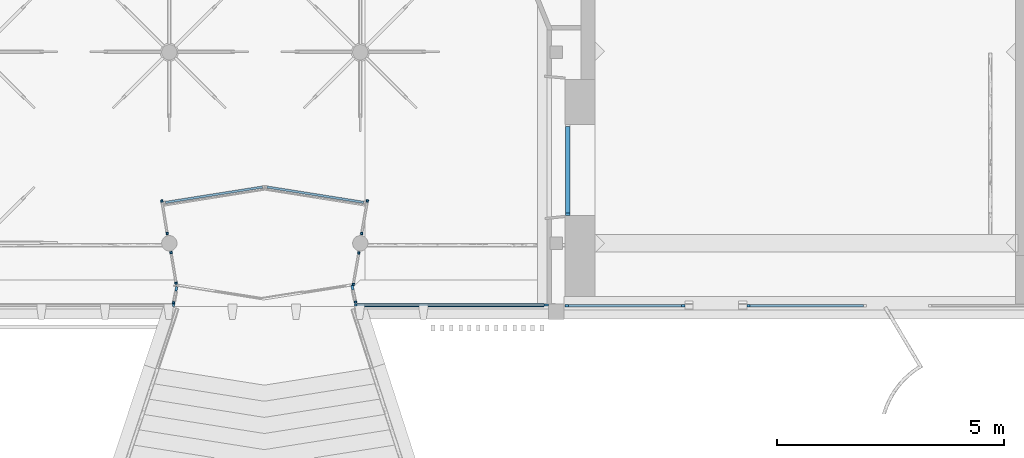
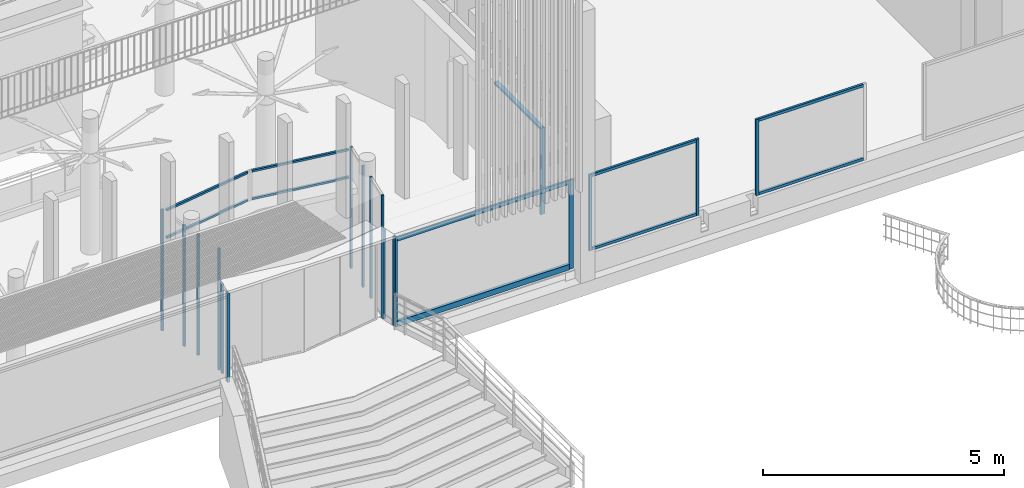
# One storey, part 6 of 65: 30 members, 13 elements without a shape of their own.
"""IFC4 building model written with IfcOpenShell, lengths in metres."""

import ifcopenshell
import ifcopenshell.guid

model = None  # the IFC model being written
_history = None  # IfcOwnerHistory: only IFC2X3 demands one
_inside = {}  # id of a spatial element -> (the spatial element, [elements in it])
_under = {}  # id of a project, library or spatial element -> (it, [spatial elements below it])
_declared = {}  # id of a project -> (the project, [libraries it declares])
_typed = {}  # id of a type object -> (the type object, [elements of that type])
_made_of = {}  # id of a material, layer set ... -> (it, [elements and type objects made of it])


def new_model(schema):
    """Start an empty IFC model of exactly this schema.

    Asked for "IFC4X3", IfcOpenShell would pick the latest addendum, in which some entities
    have other attributes; the version numbers below select the first issue.
    IFC2X3 requires an IfcOwnerHistory on every rooted entity: one is made here for all.
    """
    global model, _history
    if schema == "IFC4X3":
        model = ifcopenshell.file(schema_version=(4, 3, 0, 0))
    else:
        model = ifcopenshell.file(schema=schema)
    _inside.clear()
    _under.clear()
    _declared.clear()
    _typed.clear()
    _made_of.clear()
    _history = None
    if model.schema == "IFC2X3":
        org = make("IfcOrganization", Name="unknown")
        user = make(
            "IfcPersonAndOrganization",
            ThePerson=make("IfcPerson", FamilyName="unknown"),
            TheOrganization=org,
        )
        app = make(
            "IfcApplication",
            ApplicationDeveloper=org,
            Version="unknown",
            ApplicationFullName="unknown",
            ApplicationIdentifier="unknown",
        )
        _history = make(
            "IfcOwnerHistory",
            OwningUser=user,
            OwningApplication=app,
            ChangeAction="ADDED",
            CreationDate=0,
        )
    return model


def make(cls, **values):
    """One entity of the class cls with the attributes given. An attribute that is None is left unset."""
    return model.create_entity(
        cls, **{name: value for name, value in values.items() if value is not None}
    )


def entity(cls, *values):
    """Any entity or typed value of the class cls, its attributes in the order of the schema. None: left unset."""
    e = model.create_entity(cls)
    for i, value in enumerate(values):
        if value is not None:
            e[i] = value
    return e


def rooted(cls, **values):
    """An entity with a GlobalId (a new one), such as an element, a storey or a relation."""
    return make(cls, GlobalId=ifcopenshell.guid.new(), OwnerHistory=_history, **values)


def si_unit(unit_type, name, prefix=None):
    """IfcSIUnit, for example si_unit("LENGTHUNIT", "METRE", prefix="MILLI")."""
    return make("IfcSIUnit", UnitType=unit_type, Prefix=prefix, Name=name)


def converted_unit(unit_type, name, factor, base, dimensions=None, offset=None):
    """IfcConversionBasedUnit, such as the inch: factor (a typed value) times the base unit."""
    return make(
        "IfcConversionBasedUnit"
        if offset is None
        else "IfcConversionBasedUnitWithOffset",
        ConversionOffset=offset,
        Dimensions=None
        if dimensions is None
        else entity("IfcDimensionalExponents", *dimensions),
        UnitType=unit_type,
        Name=name,
        ConversionFactor=make(
            "IfcMeasureWithUnit", ValueComponent=factor, UnitComponent=base
        ),
    )


def derived_unit(unit_type, elements):
    """IfcDerivedUnit: a product of units, each with its exponent."""
    return make(
        "IfcDerivedUnit",
        Elements=[
            make("IfcDerivedUnitElement", Unit=unit, Exponent=power)
            for unit, power in elements
        ],
        UnitType=unit_type,
    )


def assignment(units):
    """IfcUnitAssignment: the units of a project."""
    return None if units is None else make("IfcUnitAssignment", Units=units)


def point(xyz):
    """IfcCartesianPoint."""
    return None if xyz is None else make("IfcCartesianPoint", Coordinates=xyz)


def direction(xyz):
    """IfcDirection."""
    return None if xyz is None else make("IfcDirection", DirectionRatios=xyz)


def frame(location, z_axis=None, x_axis=None):
    """IfcAxis2Placement3D, a coordinate frame: its origin and axes. An axis left out is left unset."""
    return make(
        "IfcAxis2Placement3D",
        Location=point(location),
        Axis=direction(z_axis),
        RefDirection=direction(x_axis),
    )


def origin():
    """The frame at (0, 0, 0) with its axes left unset."""
    return frame((0.0, 0.0, 0.0))


def place(relative_to, where):
    """IfcLocalPlacement: puts the frame where relative to a parent placement (None: the world)."""
    return make(
        "IfcLocalPlacement", PlacementRelTo=relative_to, RelativePlacement=where
    )


def context(
    kind, dimensions, precision=None, world=None, true_north=None, identifier=None
):
    """IfcGeometricRepresentationContext, for example the 3D "Model" context."""
    return make(
        "IfcGeometricRepresentationContext",
        ContextIdentifier=identifier,
        ContextType=kind,
        CoordinateSpaceDimension=dimensions,
        Precision=precision,
        WorldCoordinateSystem=world,
        TrueNorth=true_north,
    )


def subcontext(parent, identifier, kind, view, scale=None):
    """IfcGeometricRepresentationSubContext, for example "Body" below "Model"."""
    return make(
        "IfcGeometricRepresentationSubContext",
        ContextIdentifier=identifier,
        ContextType=kind,
        ParentContext=parent,
        TargetScale=scale,
        TargetView=view,
    )


def project(units=None, contexts=None):
    """IfcProject with its units and contexts."""
    return rooted(
        "IfcProject",
        Name="project",
        RepresentationContexts=contexts,
        UnitsInContext=assignment(units),
    )


def spatial(cls, under=None, at=None, **own):
    """A site, building, storey or space (cls), placed at a placement, below another one or the project."""
    s = rooted(cls, ObjectPlacement=at, **own)
    if under is not None:
        _under.setdefault(under.id(), (under, []))[1].append(s)
    return s


def point_list(points):
    """IfcCartesianPointList2D or 3D."""
    cls = (
        "IfcCartesianPointList2D" if len(points[0]) == 2 else "IfcCartesianPointList3D"
    )
    return make(cls, CoordList=points)


def indexed_curve(points, segments=None, self_intersect=None):
    """IfcIndexedPolyCurve: lines and arcs through numbered points (the first is 1)."""
    return make(
        "IfcIndexedPolyCurve",
        Points=point_list(points),
        Segments=segments,
        SelfIntersect=self_intersect,
    )


def outline(outer, holes=None, kind="AREA"):
    """IfcArbitraryClosedProfileDef: a profile drawn as a closed curve; with holes, ...WithVoids."""
    if holes is None:
        return make("IfcArbitraryClosedProfileDef", ProfileType=kind, OuterCurve=outer)
    return make(
        "IfcArbitraryProfileDefWithVoids",
        ProfileType=kind,
        OuterCurve=outer,
        InnerCurves=holes,
    )


def extrude(swept, where, along, depth):
    """IfcExtrudedAreaSolid: the profile swept, set in the frame where, extruded along a direction by depth."""
    return make(
        "IfcExtrudedAreaSolid",
        SweptArea=swept,
        Position=where,
        ExtrudedDirection=direction(along),
        Depth=depth,
    )


def shape(context_of_items, identifier, shape_type, items):
    """IfcShapeRepresentation: the items that make up one representation, for example the "Body"."""
    return make(
        "IfcShapeRepresentation",
        ContextOfItems=context_of_items,
        RepresentationIdentifier=identifier,
        RepresentationType=shape_type,
        Items=items,
    )


def source(mapping_origin, context_of_items, identifier, shape_type, items):
    """IfcRepresentationMap: a shape defined once, which mapped items show again and again."""
    return make(
        "IfcRepresentationMap",
        MappingOrigin=mapping_origin,
        MappedRepresentation=shape(context_of_items, identifier, shape_type, items),
    )


def transform(
    local_origin,
    x_axis=None,
    y_axis=None,
    z_axis=None,
    scale=None,
    scale2=None,
    scale3=None,
    uniform=True,
):
    """IfcCartesianTransformationOperator3D, or its non-uniform kind. x_axis, y_axis, z_axis: its Axis1, 2, 3."""
    if uniform:
        return make(
            "IfcCartesianTransformationOperator3D",
            Axis1=direction(x_axis),
            Axis2=direction(y_axis),
            LocalOrigin=point(local_origin),
            Scale=scale,
            Axis3=direction(z_axis),
        )
    return make(
        "IfcCartesianTransformationOperator3DnonUniform",
        Axis1=direction(x_axis),
        Axis2=direction(y_axis),
        LocalOrigin=point(local_origin),
        Scale=scale,
        Axis3=direction(z_axis),
        Scale2=scale2,
        Scale3=scale3,
    )


def mapped(mapping_source, mapping_target):
    """IfcMappedItem: shows the shape of a source again, moved by a transform."""
    return make(
        "IfcMappedItem", MappingSource=mapping_source, MappingTarget=mapping_target
    )


def material(Name=None, Category=None):
    """IfcMaterial."""
    return make("IfcMaterial", Name=Name, Category=Category)


def made_of(thing, what):
    """Note that an element or type object is made of a material, layer set ...; save() writes the relation."""
    if what is not None:
        _made_of.setdefault(what.id(), (what, []))[1].append(thing)
    return thing


def type_object(cls, material=None, **own):
    """A type object (cls), such as IfcWallType, which elements share."""
    return made_of(rooted(cls, **own), material)


def type_shapes(of_type, sources):
    """Give a type object the sources (RepresentationMaps) that its elements show as mapped items."""
    of_type.RepresentationMaps = sources


def element(
    cls,
    number,
    at=None,
    inside=None,
    cuts=None,
    type_object=None,
    material=None,
    context=None,
    identifier="Body",
    shape_type=None,
    held_by="IfcProductDefinitionShape",
    body=None,
    shapes=None,
    **own,
):
    """One element of the class cls, such as IfcWall. Its Tag is "e" and its number.

    at: its placement. inside: the storey or other place that contains it. cuts: it is an
    opening in that element (IfcRelVoidsElement). A single representation is given by context,
    identifier, shape_type and body (its items); several are given by shapes. held_by: the class
    of the entity that holds the representations. save() writes the other relations.
    """
    e = rooted(cls, Tag="e%d" % number, ObjectPlacement=at, **own)
    if body is not None:
        shapes = [shape(context, identifier, shape_type, body)]
    if shapes is not None:
        e.Representation = make(held_by, Representations=shapes)
    if inside is not None:
        _inside.setdefault(inside.id(), (inside, []))[1].append(e)
    if cuts is not None:
        rooted(
            "IfcRelVoidsElement", RelatingBuildingElement=cuts, RelatedOpeningElement=e
        )
    if type_object is not None:
        _typed.setdefault(type_object.id(), (type_object, []))[1].append(e)
    return made_of(e, material)


def aggregate(whole, parts):
    """IfcRelAggregates: a whole, such as a stair, and the parts it consists of."""
    return rooted("IfcRelAggregates", RelatingObject=whole, RelatedObjects=parts)


def save(model, path):
    """Write the relations noted so far, then the file.

    IfcRelAggregates (storeys below a building ...), IfcRelContainedInSpatialStructure (elements
    in a storey), IfcRelDefinesByType, IfcRelAssociatesMaterial and IfcRelDeclares: one each for
    every whole, place, type object, material and project.
    """
    for whole, parts in _under.values():
        aggregate(whole, parts)
    for where, things in _inside.values():
        rooted(
            "IfcRelContainedInSpatialStructure",
            RelatedElements=things,
            RelatingStructure=where,
        )
    for kind, things in _typed.values():
        rooted("IfcRelDefinesByType", RelatedObjects=things, RelatingType=kind)
    for what, things in _made_of.values():
        rooted("IfcRelAssociatesMaterial", RelatedObjects=things, RelatingMaterial=what)
    for by, libraries in _declared.values():
        rooted("IfcRelDeclares", RelatingContext=by, RelatedDefinitions=libraries)
    model.write(path)


model = new_model("IFC4")

# Units and contexts
model_context = context("Model", 3, precision=1e-05, world=origin(), true_north=direction((6.12303176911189e-17, 1.0)))
body_context = subcontext(model_context, "Body", "Model", "MODEL_VIEW")
ifc_project = project(units=[si_unit("LENGTHUNIT", "METRE"), si_unit("AREAUNIT", "SQUARE_METRE"), si_unit("VOLUMEUNIT", "CUBIC_METRE"), converted_unit("PLANEANGLEUNIT", "DEGREE", entity("IfcRatioMeasure", 0.0174532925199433), si_unit("PLANEANGLEUNIT", "RADIAN"), dimensions=[0, 0, 0, 0, 0, 0, 0]), si_unit("MASSUNIT", "GRAM", prefix="KILO"), derived_unit("MASSDENSITYUNIT", [(si_unit("MASSUNIT", "GRAM", prefix="KILO"), 1), (si_unit("LENGTHUNIT", "METRE"), -3)]), derived_unit("MOMENTOFINERTIAUNIT", [(si_unit("LENGTHUNIT", "METRE"), 4)]), si_unit("TIMEUNIT", "SECOND"), si_unit("FREQUENCYUNIT", "HERTZ"), si_unit("THERMODYNAMICTEMPERATUREUNIT", "DEGREE_CELSIUS"), derived_unit("THERMALTRANSMITTANCEUNIT", [(si_unit("MASSUNIT", "GRAM", prefix="KILO"), 1), (si_unit("THERMODYNAMICTEMPERATUREUNIT", "KELVIN"), -1), (si_unit("TIMEUNIT", "SECOND"), -3)]), derived_unit("VOLUMETRICFLOWRATEUNIT", [(si_unit("LENGTHUNIT", "METRE"), 3), (si_unit("TIMEUNIT", "SECOND"), -1)]), si_unit("ELECTRICCURRENTUNIT", "AMPERE"), si_unit("ELECTRICVOLTAGEUNIT", "VOLT"), si_unit("POWERUNIT", "WATT"), si_unit("FORCEUNIT", "NEWTON", prefix="KILO"), si_unit("ILLUMINANCEUNIT", "LUX"), si_unit("LUMINOUSFLUXUNIT", "LUMEN"), si_unit("LUMINOUSINTENSITYUNIT", "CANDELA"), derived_unit("USERDEFINED", [(si_unit("MASSUNIT", "GRAM", prefix="KILO"), -1), (si_unit("LENGTHUNIT", "METRE"), -2), (si_unit("TIMEUNIT", "SECOND"), 3), (si_unit("LUMINOUSFLUXUNIT", "LUMEN"), 1)]), derived_unit("LINEARVELOCITYUNIT", [(si_unit("LENGTHUNIT", "METRE"), 1), (si_unit("TIMEUNIT", "SECOND"), -1)]), si_unit("PRESSUREUNIT", "PASCAL"), derived_unit("USERDEFINED", [(si_unit("LENGTHUNIT", "METRE"), -2), (si_unit("MASSUNIT", "GRAM", prefix="KILO"), 1), (si_unit("TIMEUNIT", "SECOND"), -2)]), derived_unit("LINEARFORCEUNIT", [(si_unit("MASSUNIT", "GRAM", prefix="KILO"), 1), (si_unit("LENGTHUNIT", "METRE"), 1), (si_unit("TIMEUNIT", "SECOND"), -2), (si_unit("LENGTHUNIT", "METRE"), -1)]), derived_unit("PLANARFORCEUNIT", [(si_unit("MASSUNIT", "GRAM", prefix="KILO"), 1), (si_unit("LENGTHUNIT", "METRE"), 1), (si_unit("TIMEUNIT", "SECOND"), -2), (si_unit("LENGTHUNIT", "METRE"), -2)])], contexts=[model_context])

# Site, building, storey
site_placement = place(None, origin())
site = spatial("IfcSite", under=ifc_project, at=site_placement, Name="Default", CompositionType="ELEMENT")
building_placement = place(site_placement, origin())
building = spatial("IfcBuilding", under=site, at=building_placement, Name="HOTEL CONSULAIRE BOULOGNE SUR MER", CompositionType="ELEMENT")
storey_placement = place(building_placement, origin())
storey = spatial("IfcBuildingStorey", under=building, at=storey_placement, Name="Niveau 0", CompositionType="ELEMENT", Elevation=1.31981936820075e-13)

# Curtain wall, members
curtain_wall_type = type_object("IfcCurtainWallType", Name="Mur-rideau:Simple panneau", PredefinedType="NOTDEFINED")
curtain_wall_1_placement = place(storey_placement, origin())
curtain_wall_1 = element("IfcCurtainWall", 1, at=curtain_wall_1_placement, inside=storey, type_object=curtain_wall_type, Name="Mur-rideau:Simple panneau", ObjectType="Mur-rideau:Simple panneau", PredefinedType="NOTDEFINED")
ifc_material_1 = material(Name="PVC, souple", Category="Plastique")
member_type_1 = type_object("IfcMemberType", Name="Meneau rectangulaire:100 x 25mm", PredefinedType="MULLION", material=ifc_material_1)
shared_shape_1 = source(origin(), body_context, "Body", "SweptSolid", [
    extrude(outline(indexed_curve([(-0.05, -0.025), (0.05, -0.025), (0.05, 0.025), (-0.05, 0.025), (-0.05, -0.025)], self_intersect=False)), frame((-0.025, 0.0, -2.18791504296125), z_axis=(0.0, 0.0, 1.0), x_axis=(0.0, -1.0, 0.0)), (0.0, 0.0, 1.0), 2.18791504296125),
])
type_shapes(member_type_1, [shared_shape_1])
member_1_placement = place(storey_placement, frame((11.7294778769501, -27.6000563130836, 2.1879150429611), z_axis=(0.0, 0.0, 1.0), x_axis=(0.0, -1.0, 0.0)))
member_1 = element("IfcMember", 2, at=member_1_placement, type_object=member_type_1, material=ifc_material_1, Name="Meneau rectangulaire:100 x 25mm", ObjectType="Meneau rectangulaire:100 x 25mm", PredefinedType="MULLION", context=body_context, shape_type="MappedRepresentation", body=[
    mapped(shared_shape_1, transform((0.0, 0.0, 0.0), scale=1.0)),
])
member_type_2 = type_object("IfcMemberType", Name="Meneau rectangulaire:100 x 25mm", PredefinedType="MULLION", material=ifc_material_1)
shared_shape_2 = source(origin(), body_context, "Body", "SweptSolid", [
    extrude(outline(indexed_curve([(-0.05, -0.025), (0.05, -0.025), (0.05, 0.025), (-0.05, 0.025), (-0.05, -0.025)], self_intersect=False)), frame((-0.025, 0.0, -1.89707398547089), z_axis=(0.0, 0.0, 1.0), x_axis=(0.0, -1.0, 0.0)), (0.0, 0.0, 1.0), 1.89707398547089),
])
type_shapes(member_type_2, [shared_shape_2])
member_2_placement = place(storey_placement, frame((11.7294778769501, -25.6529823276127, 2.1879150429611), z_axis=(0.0, 1.0, 0.0), x_axis=(0.0, 0.0, 1.0)))
member_2 = element("IfcMember", 3, at=member_2_placement, type_object=member_type_2, material=ifc_material_1, Name="Meneau rectangulaire:100 x 25mm", ObjectType="Meneau rectangulaire:100 x 25mm", PredefinedType="MULLION", context=body_context, shape_type="MappedRepresentation", body=[
    mapped(shared_shape_2, transform((0.0, 0.0, 0.0), scale=1.0)),
])
aggregate(curtain_wall_1, [member_1, member_2])

# Curtain wall, member
curtain_wall_2_placement = place(storey_placement, origin())
curtain_wall_2 = element("IfcCurtainWall", 4, at=curtain_wall_2_placement, inside=storey, type_object=curtain_wall_type, Name="Mur-rideau:Simple panneau", ObjectType="Mur-rideau:Simple panneau", PredefinedType="NOTDEFINED")
ifc_material_2 = material(Name="PVC - Blanc", Category="Plastique")
member_type_3 = type_object("IfcMemberType", Name="Meneau rectangulaire:50 x 25mm", PredefinedType="MULLION", material=ifc_material_2)
shared_shape_3 = source(origin(), body_context, "Body", "SweptSolid", [
    extrude(outline(indexed_curve([(-0.025, -0.025), (0.025, -0.025), (0.025, 0.025), (-0.025, 0.025), (-0.025, -0.025)], self_intersect=False)), frame((-0.025, -0.025, -2.25), z_axis=(0.0, 0.0, 1.0), x_axis=(0.0, -1.0, 0.0)), (0.0, 0.0, 1.0), 2.25),
])
type_shapes(member_type_3, [shared_shape_3])
member_3_placement = place(storey_placement, frame((3.08622682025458, -29.5510671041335, 2.2499999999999)))
member_3 = element("IfcMember", 5, at=member_3_placement, type_object=member_type_3, material=ifc_material_2, Name="Meneau rectangulaire:50 x 25mm", ObjectType="Meneau rectangulaire:50 x 25mm", PredefinedType="MULLION", context=body_context, shape_type="MappedRepresentation", body=[
    mapped(shared_shape_3, transform((0.0, 0.0, 0.0), scale=1.0)),
])
aggregate(curtain_wall_2, [member_3])

curtain_wall_3_placement = place(storey_placement, origin())
curtain_wall_3 = element("IfcCurtainWall", 6, at=curtain_wall_3_placement, inside=storey, type_object=curtain_wall_type, Name="Mur-rideau:Simple panneau", ObjectType="Mur-rideau:Simple panneau", PredefinedType="NOTDEFINED")
member_4_placement = place(storey_placement, frame((3.08622682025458, -29.5510671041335, 2.2499999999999), z_axis=(0.0, 0.0, 1.0), x_axis=(-0.190808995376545, -0.981627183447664, 0.0)))
member_4 = element("IfcMember", 7, at=member_4_placement, type_object=member_type_3, material=ifc_material_2, Name="Meneau rectangulaire:50 x 25mm", ObjectType="Meneau rectangulaire:50 x 25mm", PredefinedType="MULLION", context=body_context, shape_type="MappedRepresentation", body=[
    mapped(shared_shape_3, transform((0.0, 0.0, 0.0), scale=1.0)),
])

curtain_wall_4_placement = place(storey_placement, origin())
curtain_wall_4 = element("IfcCurtainWall", 8, at=curtain_wall_4_placement, inside=storey, type_object=curtain_wall_type, Name="Mur-rideau:Simple panneau", ObjectType="Mur-rideau:Simple panneau", PredefinedType="NOTDEFINED")
member_5_placement = place(storey_placement, frame((7.04517677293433, -29.5980671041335, 2.2499999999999), z_axis=(0.0, 0.0, 1.0), x_axis=(-1.0, 0.0, 0.0)))
member_5 = element("IfcMember", 9, at=member_5_placement, type_object=member_type_3, material=ifc_material_2, Name="Meneau rectangulaire:50 x 25mm", ObjectType="Meneau rectangulaire:50 x 25mm", PredefinedType="MULLION", context=body_context, shape_type="MappedRepresentation", body=[
    mapped(shared_shape_3, transform((0.0, 0.0, 0.0), scale=1.0)),
])

# Member
member_type_4 = type_object("IfcMemberType", Name="Meneau rectangulaire:50 x 50 mm", PredefinedType="MULLION", material=ifc_material_2)
shared_shape_4 = source(origin(), body_context, "Body", "SweptSolid", [
    extrude(outline(indexed_curve([(-0.025, -0.05), (0.025, -0.05), (0.025, 0.05), (-0.025, 0.05), (-0.025, -0.05)], self_intersect=False)), frame((-0.05, -0.025, -2.25), z_axis=(0.0, 0.0, 1.0), x_axis=(0.0, -1.0, 0.0)), (0.0, 0.0, 1.0), 2.25),
])
type_shapes(member_type_4, [shared_shape_4])
member_6_placement = place(storey_placement, frame((3.1593066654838, -29.175103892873, 0.0), z_axis=(0.0, 0.0, -1.0), x_axis=(0.190808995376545, 0.981627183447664, 0.0)))
member_6 = element("IfcMember", 10, at=member_6_placement, type_object=member_type_4, material=ifc_material_2, Name="Meneau rectangulaire:50 x 50 mm", ObjectType="Meneau rectangulaire:50 x 50 mm", PredefinedType="MULLION", context=body_context, shape_type="MappedRepresentation", body=[
    mapped(shared_shape_4, transform((0.0, 0.0, 0.0), scale=1.0)),
])

aggregate(curtain_wall_3, [member_4, member_6])

member_7_placement = place(storey_placement, frame((11.3066382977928, -29.5980671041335, 0.0), z_axis=(0.0, 0.0, -1.0), x_axis=(1.0, 0.0, 0.0)))
member_7 = element("IfcMember", 11, at=member_7_placement, type_object=member_type_4, material=ifc_material_2, Name="Meneau rectangulaire:50 x 50 mm", ObjectType="Meneau rectangulaire:50 x 50 mm", PredefinedType="MULLION", context=body_context, shape_type="MappedRepresentation", body=[
    mapped(shared_shape_4, transform((0.0, 0.0, 0.0), scale=1.0)),
])

# Curtain wall, member
curtain_wall_5_placement = place(storey_placement, origin())
curtain_wall_5 = element("IfcCurtainWall", 12, at=curtain_wall_5_placement, inside=storey, type_object=curtain_wall_type, Name="Mur-rideau:Simple panneau", ObjectType="Mur-rideau:Simple panneau", PredefinedType="NOTDEFINED")
member_type_5 = type_object("IfcMemberType", Name="Meneau rectangulaire:50 x 25mm", PredefinedType="MULLION", material=ifc_material_2)
shared_shape_5 = source(origin(), body_context, "Body", "SweptSolid", [
    extrude(outline(indexed_curve([(-0.025, -0.025), (0.025, -0.025), (0.025, 0.025), (-0.025, 0.025), (-0.025, -0.025)], self_intersect=False)), frame((-0.025, -0.025, -3.06461878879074), z_axis=(0.0, 0.0, 1.0), x_axis=(0.0, -1.0, 0.0)), (0.0, 0.0, 1.0), 3.06461878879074),
])
type_shapes(member_type_5, [shared_shape_5])
member_8_placement = place(storey_placement, frame((3.14901023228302, -29.1132098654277, 3.06461878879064), z_axis=(0.0, 0.0, 1.0), x_axis=(0.164100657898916, -0.98644359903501, 0.0)))
member_8 = element("IfcMember", 13, at=member_8_placement, type_object=member_type_5, material=ifc_material_2, Name="Meneau rectangulaire:50 x 25mm", ObjectType="Meneau rectangulaire:50 x 25mm", PredefinedType="MULLION", context=body_context, shape_type="MappedRepresentation", body=[
    mapped(shared_shape_5, transform((0.0, 0.0, 0.0), scale=1.0)),
])

curtain_wall_6_placement = place(storey_placement, origin())
curtain_wall_6 = element("IfcCurtainWall", 14, at=curtain_wall_6_placement, inside=storey, type_object=curtain_wall_type, Name="Mur-rideau:Simple panneau", ObjectType="Mur-rideau:Simple panneau", PredefinedType="NOTDEFINED")
member_9_placement = place(storey_placement, frame((2.9533054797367, -28.0203385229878, 3.06461878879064), z_axis=(0.0, 0.0, 1.0), x_axis=(0.161062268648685, -0.986944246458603, 0.0)))
member_9 = element("IfcMember", 15, at=member_9_placement, type_object=member_type_5, material=ifc_material_2, Name="Meneau rectangulaire:50 x 25mm", ObjectType="Meneau rectangulaire:50 x 25mm", PredefinedType="MULLION", context=body_context, shape_type="MappedRepresentation", body=[
    mapped(shared_shape_5, transform((0.0, 0.0, 0.0), scale=1.0)),
])

# Member
member_type_6 = type_object("IfcMemberType", Name="Meneau rectangulaire:50 x 25mm", PredefinedType="MULLION", material=ifc_material_2)
shared_shape_6 = source(origin(), body_context, "Body", "SweptSolid", [
    extrude(outline(indexed_curve([(-0.025, -0.025), (0.025, -0.025), (0.025, 0.025), (-0.025, 0.025), (-0.025, -0.025)], self_intersect=False)), frame((-0.025, -0.025, -3.06461878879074), z_axis=(0.0, 0.0, 1.0), x_axis=(0.0, -1.0, 0.0)), (0.0, 0.0, 1.0), 3.06461878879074),
])
type_shapes(member_type_6, [shared_shape_6])
member_10_placement = place(storey_placement, frame((3.02901074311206, -28.3918676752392, 0.0), z_axis=(0.0, 0.0, -1.0), x_axis=(-0.164100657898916, 0.98644359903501, 0.0)))
member_10 = element("IfcMember", 16, at=member_10_placement, type_object=member_type_6, material=ifc_material_2, Name="Meneau rectangulaire:50 x 25mm", ObjectType="Meneau rectangulaire:50 x 25mm", PredefinedType="MULLION", context=body_context, shape_type="MappedRepresentation", body=[
    mapped(shared_shape_6, transform((0.0, 0.0, 0.0), scale=1.0)),
])

aggregate(curtain_wall_5, [member_8, member_10])

member_11_placement = place(storey_placement, frame((2.82866334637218, -27.2565666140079, 0.0), z_axis=(0.0, 0.0, -1.0), x_axis=(-0.161062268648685, 0.986944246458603, 0.0)))
member_11 = element("IfcMember", 17, at=member_11_placement, type_object=member_type_6, material=ifc_material_2, Name="Meneau rectangulaire:50 x 25mm", ObjectType="Meneau rectangulaire:50 x 25mm", PredefinedType="MULLION", context=body_context, shape_type="MappedRepresentation", body=[
    mapped(shared_shape_6, transform((0.0, 0.0, 0.0), scale=1.0)),
])

aggregate(curtain_wall_6, [member_9, member_11])

member_type_7 = type_object("IfcMemberType", Name="Meneau rectangulaire:70x70", PredefinedType="MULLION", material=ifc_material_2)
shared_shape_7 = source(origin(), body_context, "Body", "SweptSolid", [
    extrude(outline(indexed_curve([(-0.035, -0.07), (0.035, -0.07), (0.035, 0.07), (-0.035, 0.07), (-0.035, -0.07)], self_intersect=False)), frame((-0.07, -0.02, -4.11146152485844), z_axis=(0.0, 0.0, 1.0), x_axis=(0.0, -1.0, 0.0)), (0.0, 0.0, 1.0), 4.11146152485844),
])
type_shapes(member_type_7, [shared_shape_7])
member_12_placement = place(storey_placement, frame((7.09517677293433, -29.5980671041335, 0.0), z_axis=(-1.0, 0.0, 0.0), x_axis=(0.0, 0.0, -1.0)))
member_12 = element("IfcMember", 18, at=member_12_placement, type_object=member_type_7, material=ifc_material_2, Name="Meneau rectangulaire:70x70", ObjectType="Meneau rectangulaire:70x70", PredefinedType="MULLION", context=body_context, shape_type="MappedRepresentation", body=[
    mapped(shared_shape_7, transform((0.0, 0.0, 0.0), scale=1.0)),
])

member_type_8 = type_object("IfcMemberType", Name="Meneau rectangulaire:50 x 50 mm", PredefinedType="MULLION", material=ifc_material_2)
shared_shape_8 = source(origin(), body_context, "Body", "SweptSolid", [
    extrude(outline(indexed_curve([(-0.025, -0.05), (0.025, -0.05), (0.025, 0.05), (-0.025, 0.05), (-0.025, -0.05)], self_intersect=False)), frame((-0.05, -0.025, -4.11146152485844), z_axis=(0.0, 0.0, 1.0), x_axis=(0.0, -1.0, 0.0)), (0.0, 0.0, 1.0), 4.11146152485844),
])
type_shapes(member_type_8, [shared_shape_8])
member_13_placement = place(storey_placement, frame((11.2066382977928, -29.5980671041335, 2.2499999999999), z_axis=(1.0, 0.0, 0.0), x_axis=(0.0, 0.0, 1.0)))
member_13 = element("IfcMember", 19, at=member_13_placement, type_object=member_type_8, material=ifc_material_2, Name="Meneau rectangulaire:50 x 50 mm", ObjectType="Meneau rectangulaire:50 x 50 mm", PredefinedType="MULLION", context=body_context, shape_type="MappedRepresentation", body=[
    mapped(shared_shape_8, transform((0.0, 0.0, 0.0), scale=1.0)),
])

aggregate(curtain_wall_4, [member_12, member_5, member_13, member_7])

# Curtain wall, members
curtain_wall_7_placement = place(storey_placement, origin())
curtain_wall_7 = element("IfcCurtainWall", 20, at=curtain_wall_7_placement, inside=storey, type_object=curtain_wall_type, Name="Mur-rideau:Simple panneau", ObjectType="Mur-rideau:Simple panneau", PredefinedType="NOTDEFINED")
member_type_9 = type_object("IfcMemberType", Name="Meneau rectangulaire:50 x 25mm", PredefinedType="MULLION", material=ifc_material_2)
shared_shape_9 = source(origin(), body_context, "Body", "SweptSolid", [
    extrude(outline(indexed_curve([(-0.025, -0.025), (0.025, -0.025), (0.025, 0.025), (-0.025, 0.025), (-0.025, -0.025)], self_intersect=False)), frame((-0.025, 0.025, -2.25), z_axis=(0.0, 0.0, 1.0), x_axis=(0.0, -1.0, 0.0)), (0.0, 0.0, 1.0), 2.25),
])
type_shapes(member_type_9, [shared_shape_9])
member_14_placement = place(storey_placement, frame((7.04694705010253, -29.5380671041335, 2.2499999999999), z_axis=(0.0, 0.0, 1.0), x_axis=(0.207911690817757, -0.978147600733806, 0.0)))
member_14 = element("IfcMember", 21, at=member_14_placement, type_object=member_type_9, material=ifc_material_2, Name="Meneau rectangulaire:50 x 25mm", ObjectType="Meneau rectangulaire:50 x 25mm", PredefinedType="MULLION", context=body_context, shape_type="MappedRepresentation", body=[
    mapped(shared_shape_9, transform((0.0, 0.0, 0.0), scale=1.0)),
])
member_type_10 = type_object("IfcMemberType", Name="Meneau rectangulaire:50 x 50 mm", PredefinedType="MULLION", material=ifc_material_2)
shared_shape_10 = source(origin(), body_context, "Body", "SweptSolid", [
    extrude(outline(indexed_curve([(-0.025, -0.05), (0.025, -0.05), (0.025, 0.05), (-0.025, 0.05), (-0.025, -0.05)], self_intersect=False)), frame((-0.05, 0.025, -2.25), z_axis=(0.0, 0.0, 1.0), x_axis=(0.0, -1.0, 0.0)), (0.0, 0.0, 1.0), 2.25),
])
type_shapes(member_type_10, [shared_shape_10])
member_15_placement = place(storey_placement, frame((6.96341299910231, -29.1450702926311, 0.0), z_axis=(0.0, 0.0, -1.0), x_axis=(-0.207911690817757, 0.978147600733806, 0.0)))
member_15 = element("IfcMember", 22, at=member_15_placement, type_object=member_type_10, material=ifc_material_2, Name="Meneau rectangulaire:50 x 50 mm", ObjectType="Meneau rectangulaire:50 x 50 mm", PredefinedType="MULLION", context=body_context, shape_type="MappedRepresentation", body=[
    mapped(shared_shape_10, transform((0.0, 0.0, 0.0), scale=1.0)),
])
aggregate(curtain_wall_7, [member_14, member_15])

# Curtain wall, member
curtain_wall_8_placement = place(storey_placement, origin())
curtain_wall_8 = element("IfcCurtainWall", 23, at=curtain_wall_8_placement, inside=storey, type_object=curtain_wall_type, Name="Mur-rideau:Simple panneau", ObjectType="Mur-rideau:Simple panneau", PredefinedType="NOTDEFINED")
member_type_11 = type_object("IfcMemberType", Name="Meneau rectangulaire:50 x 25mm", PredefinedType="MULLION", material=ifc_material_2)
shared_shape_11 = source(origin(), body_context, "Body", "SweptSolid", [
    extrude(outline(indexed_curve([(-0.025, -0.025), (0.025, -0.025), (0.025, 0.025), (-0.025, 0.025), (-0.025, -0.025)], self_intersect=False)), frame((-0.025, 0.025, -3.06461878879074), z_axis=(0.0, 0.0, 1.0), x_axis=(0.0, -1.0, 0.0)), (0.0, 0.0, 1.0), 3.06461878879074),
])
type_shapes(member_type_11, [shared_shape_11])
member_16_placement = place(storey_placement, frame((6.98748512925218, -29.139879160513, 3.06461878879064), z_axis=(0.0, 0.0, 1.0), x_axis=(-0.173648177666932, -0.984807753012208, 0.0)))
member_16 = element("IfcMember", 24, at=member_16_placement, type_object=member_type_11, material=ifc_material_2, Name="Meneau rectangulaire:50 x 25mm", ObjectType="Meneau rectangulaire:50 x 25mm", PredefinedType="MULLION", context=body_context, shape_type="MappedRepresentation", body=[
    mapped(shared_shape_11, transform((0.0, 0.0, 0.0), scale=1.0)),
])

curtain_wall_9_placement = place(storey_placement, origin())
curtain_wall_9 = element("IfcCurtainWall", 25, at=curtain_wall_9_placement, inside=storey, type_object=curtain_wall_type, Name="Mur-rideau:Simple panneau", ObjectType="Mur-rideau:Simple panneau", PredefinedType="NOTDEFINED")
member_17_placement = place(storey_placement, frame((7.17117677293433, -28.020909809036, 3.06461878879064), z_axis=(0.0, 0.0, 1.0), x_axis=(-0.173648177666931, -0.984807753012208, 0.0)))
member_17 = element("IfcMember", 26, at=member_17_placement, type_object=member_type_11, material=ifc_material_2, Name="Meneau rectangulaire:50 x 25mm", ObjectType="Meneau rectangulaire:50 x 25mm", PredefinedType="MULLION", context=body_context, shape_type="MappedRepresentation", body=[
    mapped(shared_shape_11, transform((0.0, 0.0, 0.0), scale=1.0)),
])

# Member
member_type_12 = type_object("IfcMemberType", Name="Meneau rectangulaire:50 x 25mm", PredefinedType="MULLION", material=ifc_material_2)
shared_shape_12 = source(origin(), body_context, "Body", "SweptSolid", [
    extrude(outline(indexed_curve([(-0.025, -0.025), (0.025, -0.025), (0.025, 0.025), (-0.025, 0.025), (-0.025, -0.025)], self_intersect=False)), frame((-0.025, 0.025, -3.06461878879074), z_axis=(0.0, 0.0, 1.0), x_axis=(0.0, -1.0, 0.0)), (0.0, 0.0, 1.0), 3.06461878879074),
])
type_shapes(member_type_12, [shared_shape_12])
member_18_placement = place(storey_placement, frame((7.11806855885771, -28.3993037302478, 0.0), z_axis=(0.0, 0.0, -1.0), x_axis=(0.173648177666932, 0.984807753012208, 0.0)))
member_18 = element("IfcMember", 27, at=member_18_placement, type_object=member_type_12, material=ifc_material_2, Name="Meneau rectangulaire:50 x 25mm", ObjectType="Meneau rectangulaire:50 x 25mm", PredefinedType="MULLION", context=body_context, shape_type="MappedRepresentation", body=[
    mapped(shared_shape_12, transform((0.0, 0.0, 0.0), scale=1.0)),
])

aggregate(curtain_wall_8, [member_16, member_18])

member_19_placement = place(storey_placement, frame((7.30595110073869, -27.2565666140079, 0.0), z_axis=(0.0, 0.0, -1.0), x_axis=(0.173648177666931, 0.984807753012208, 0.0)))
member_19 = element("IfcMember", 28, at=member_19_placement, type_object=member_type_12, material=ifc_material_2, Name="Meneau rectangulaire:50 x 25mm", ObjectType="Meneau rectangulaire:50 x 25mm", PredefinedType="MULLION", context=body_context, shape_type="MappedRepresentation", body=[
    mapped(shared_shape_12, transform((0.0, 0.0, 0.0), scale=1.0)),
])

aggregate(curtain_wall_9, [member_17, member_19])

# Curtain wall, members
curtain_wall_10_placement = place(storey_placement, origin())
curtain_wall_10 = element("IfcCurtainWall", 29, at=curtain_wall_10_placement, inside=storey, type_object=curtain_wall_type, Name="Mur-rideau:Simple panneau", ObjectType="Mur-rideau:Simple panneau", PredefinedType="NOTDEFINED")
member_type_13 = type_object("IfcMemberType", Name="Meneau rectangulaire:50 x 25mm", PredefinedType="MULLION", material=ifc_material_2)
shared_shape_13 = source(origin(), body_context, "Body", "SweptSolid", [
    extrude(outline(indexed_curve([(-0.025, -0.025), (0.0250000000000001, -0.025), (0.0250000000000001, 0.025), (-0.0249999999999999, 0.025), (-0.025, -0.025)], self_intersect=False)), frame((-0.025, -0.025, -2.15674557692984), z_axis=(0.0, 0.0, 1.0), x_axis=(0.0, -1.0, 0.0)), (0.0, 0.0, 1.0), 2.15674557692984),
])
type_shapes(member_type_13, [shared_shape_13])
member_20_placement = place(storey_placement, frame((5.02087097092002, -27.0049427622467, 3.06461878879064), z_axis=(0.987688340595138, 0.156434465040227, 0.0), x_axis=(0.0, 0.0, 1.0)))
member_20 = element("IfcMember", 30, at=member_20_placement, type_object=member_type_13, material=ifc_material_2, Name="Meneau rectangulaire:50 x 25mm", ObjectType="Meneau rectangulaire:50 x 25mm", PredefinedType="MULLION", context=body_context, shape_type="MappedRepresentation", body=[
    mapped(shared_shape_13, transform((0.0, 0.0, 0.0), scale=1.0)),
])
member_type_14 = type_object("IfcMemberType", Name="Meneau rectangulaire:50 x 25mm", PredefinedType="MULLION", material=ifc_material_2)
shared_shape_14 = source(origin(), body_context, "Body", "SweptSolid", [
    extrude(outline(indexed_curve([(-0.025, -0.025), (0.0249999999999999, -0.025), (0.0249999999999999, 0.025), (-0.0250000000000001, 0.025), (-0.025, -0.025)], self_intersect=False)), frame((-0.025, -0.025, -2.15674557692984), z_axis=(0.0, 0.0, 1.0), x_axis=(0.0, -1.0, 0.0)), (0.0, 0.0, 1.0), 2.15674557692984),
])
type_shapes(member_type_14, [shared_shape_14])
member_21_placement = place(storey_placement, frame((2.89067851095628, -27.3423321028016, 2.3159999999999), z_axis=(-0.987688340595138, -0.156434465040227, 0.0), x_axis=(0.0, 0.0, -1.0)))
member_21 = element("IfcMember", 31, at=member_21_placement, type_object=member_type_14, material=ifc_material_2, Name="Meneau rectangulaire:50 x 25mm", ObjectType="Meneau rectangulaire:50 x 25mm", PredefinedType="MULLION", context=body_context, shape_type="MappedRepresentation", body=[
    mapped(shared_shape_14, transform((0.0, 0.0, 0.0), scale=1.0)),
])
aggregate(curtain_wall_10, [member_20, member_21])

curtain_wall_11_placement = place(storey_placement, origin())
curtain_wall_11 = element("IfcCurtainWall", 32, at=curtain_wall_11_placement, inside=storey, type_object=curtain_wall_type, Name="Mur-rideau:Simple panneau", ObjectType="Mur-rideau:Simple panneau", PredefinedType="NOTDEFINED")
member_type_15 = type_object("IfcMemberType", Name="Meneau rectangulaire:50 x 25mm", PredefinedType="MULLION", material=ifc_material_2)
shared_shape_15 = source(origin(), body_context, "Body", "SweptSolid", [
    extrude(outline(indexed_curve([(-0.025, -0.025), (0.025, -0.025), (0.025, 0.025), (-0.025, 0.025), (-0.025, -0.025)], self_intersect=False)), frame((-0.025, 0.025, -2.14712497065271), z_axis=(0.0, 0.0, 1.0), x_axis=(0.0, -1.0, 0.0)), (0.0, 0.0, 1.0), 2.14712497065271),
])
type_shapes(member_type_15, [shared_shape_15])
member_22_placement = place(storey_placement, frame((5.11963980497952, -27.0049427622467, 3.06461878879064), z_axis=(-0.987688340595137, 0.156434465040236, 0.0), x_axis=(0.0, 0.0, 1.0)))
member_22 = element("IfcMember", 33, at=member_22_placement, type_object=member_type_15, material=ifc_material_2, Name="Meneau rectangulaire:50 x 25mm", ObjectType="Meneau rectangulaire:50 x 25mm", PredefinedType="MULLION", context=body_context, shape_type="MappedRepresentation", body=[
    mapped(shared_shape_15, transform((0.0, 0.0, 0.0), scale=1.0)),
])
member_type_16 = type_object("IfcMemberType", Name="Meneau rectangulaire:50 x 25mm", PredefinedType="MULLION", material=ifc_material_2)
shared_shape_16 = source(origin(), body_context, "Body", "SweptSolid", [
    extrude(outline(indexed_curve([(-0.025, -0.025), (0.025, -0.025), (0.025, 0.025), (-0.025, 0.025), (-0.025, -0.025)], self_intersect=False)), frame((-0.025, 0.025, -2.14712497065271), z_axis=(0.0, 0.0, 1.0), x_axis=(0.0, -1.0, 0.0)), (0.0, 0.0, 1.0), 2.14712497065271),
])
type_shapes(member_type_16, [shared_shape_16])
member_23_placement = place(storey_placement, frame((7.24033010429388, -27.3408271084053, 2.3159999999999), z_axis=(0.987688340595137, -0.156434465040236, 0.0), x_axis=(0.0, 0.0, -1.0)))
member_23 = element("IfcMember", 34, at=member_23_placement, type_object=member_type_16, material=ifc_material_2, Name="Meneau rectangulaire:50 x 25mm", ObjectType="Meneau rectangulaire:50 x 25mm", PredefinedType="MULLION", context=body_context, shape_type="MappedRepresentation", body=[
    mapped(shared_shape_16, transform((0.0, 0.0, 0.0), scale=1.0)),
])
aggregate(curtain_wall_11, [member_22, member_23])

# Curtain wall, member
curtain_wall_12_placement = place(storey_placement, origin())
curtain_wall_12 = element("IfcCurtainWall", 35, at=curtain_wall_12_placement, inside=storey, type_object=curtain_wall_type, Name="Mur-rideau:Simple panneau", ObjectType="Mur-rideau:Simple panneau", PredefinedType="NOTDEFINED")
ifc_material_3 = material(Name="alu finifion bleu")
member_type_17 = type_object("IfcMemberType", Name="Meneau rectangulaire:50 x 35 Alu bleu", PredefinedType="MULLION", material=ifc_material_3)
shared_shape_17 = source(origin(), body_context, "Body", "SweptSolid", [
    extrude(outline(indexed_curve([(-0.025, -0.035), (0.025, -0.035), (0.025, 0.035), (-0.025, 0.035), (-0.025, -0.035)], self_intersect=False)), frame((-0.035, -0.025, -1.92944921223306), z_axis=(0.0, 0.0, 1.0), x_axis=(0.0, -1.0, 0.0)), (0.0, 0.0, 1.0), 1.92944921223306),
])
type_shapes(member_type_17, [shared_shape_17])
member_24_placement = place(storey_placement, frame((11.6764778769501, -29.6140671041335, 2.23404066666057), z_axis=(0.0, 0.0, 1.0), x_axis=(-1.0, 0.0, 0.0)))
member_24 = element("IfcMember", 36, at=member_24_placement, type_object=member_type_17, material=ifc_material_3, Name="Meneau rectangulaire:50 x 35 Alu bleu", ObjectType="Meneau rectangulaire:50 x 35 Alu bleu", PredefinedType="MULLION", context=body_context, shape_type="MappedRepresentation", body=[
    mapped(shared_shape_17, transform((0.0, 0.0, 0.0), scale=1.0)),
])

curtain_wall_13_placement = place(storey_placement, origin())
curtain_wall_13 = element("IfcCurtainWall", 37, at=curtain_wall_13_placement, inside=storey, type_object=curtain_wall_type, Name="Mur-rideau:Simple panneau", ObjectType="Mur-rideau:Simple panneau", PredefinedType="NOTDEFINED")
member_25_placement = place(storey_placement, frame((15.6684235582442, -29.6140671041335, 2.23404066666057), z_axis=(0.0, 0.0, 1.0), x_axis=(-1.0, 0.0, 0.0)))
member_25 = element("IfcMember", 38, at=member_25_placement, type_object=member_type_17, material=ifc_material_3, Name="Meneau rectangulaire:50 x 35 Alu bleu", ObjectType="Meneau rectangulaire:50 x 35 Alu bleu", PredefinedType="MULLION", context=body_context, shape_type="MappedRepresentation", body=[
    mapped(shared_shape_17, transform((0.0, 0.0, 0.0), scale=1.0)),
])

# Member
member_type_18 = type_object("IfcMemberType", Name="Meneau rectangulaire:50 x 35 Alu bleu", PredefinedType="MULLION", material=ifc_material_3)
shared_shape_18 = source(origin(), body_context, "Body", "SweptSolid", [
    extrude(outline(indexed_curve([(-0.025, -0.035), (0.025, -0.035), (0.025, 0.035), (-0.025, 0.035), (-0.025, -0.035)], self_intersect=False)), frame((-0.035, -0.025, -2.49), z_axis=(0.0, 0.0, 1.0), x_axis=(0.0, -1.0, 0.0)), (0.0, 0.0, 1.0), 2.48999999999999),
])
type_shapes(member_type_18, [shared_shape_18])
member_26_placement = place(storey_placement, frame((14.2364778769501, -29.6140671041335, 2.23404066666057), z_axis=(1.0, 0.0, 0.0), x_axis=(0.0, 0.0, 1.0)))
member_26 = element("IfcMember", 39, at=member_26_placement, type_object=member_type_18, material=ifc_material_3, Name="Meneau rectangulaire:50 x 35 Alu bleu", ObjectType="Meneau rectangulaire:50 x 35 Alu bleu", PredefinedType="MULLION", context=body_context, shape_type="MappedRepresentation", body=[
    mapped(shared_shape_18, transform((0.0, 0.0, 0.0), scale=1.0)),
])

member_type_19 = type_object("IfcMemberType", Name="Meneau rectangulaire:50 x 35 Alu bleu", PredefinedType="MULLION", material=ifc_material_3)
shared_shape_19 = source(origin(), body_context, "Body", "SweptSolid", [
    extrude(outline(indexed_curve([(-0.025, -0.035), (0.025, -0.035), (0.025, 0.035), (-0.025, 0.035), (-0.025, -0.035)], self_intersect=False)), frame((-0.035, -0.025, -1.92944921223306), z_axis=(0.0, 0.0, 1.0), x_axis=(0.0, -1.0, 0.0)), (0.0, 0.0, 1.0), 1.92944921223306),
])
type_shapes(member_type_19, [shared_shape_19])
member_27_placement = place(storey_placement, frame((14.3064778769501, -29.6140671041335, 0.304591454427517), z_axis=(0.0, 0.0, -1.0), x_axis=(1.0, 0.0, 0.0)))
member_27 = element("IfcMember", 40, at=member_27_placement, type_object=member_type_19, material=ifc_material_3, Name="Meneau rectangulaire:50 x 35 Alu bleu", ObjectType="Meneau rectangulaire:50 x 35 Alu bleu", PredefinedType="MULLION", context=body_context, shape_type="MappedRepresentation", body=[
    mapped(shared_shape_19, transform((0.0, 0.0, 0.0), scale=1.0)),
])

member_type_20 = type_object("IfcMemberType", Name="Meneau rectangulaire:50 x 35 Alu bleu", PredefinedType="MULLION", material=ifc_material_3)
shared_shape_20 = source(origin(), body_context, "Body", "SweptSolid", [
    extrude(outline(indexed_curve([(-0.025, -0.035), (0.025, -0.035), (0.025, 0.035), (-0.025, 0.035), (-0.025, -0.035)], self_intersect=False)), frame((-0.035, -0.025, -2.48999999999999), z_axis=(0.0, 0.0, 1.0), x_axis=(0.0, -1.0, 0.0)), (0.0, 0.0, 1.0), 2.48999999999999),
])
type_shapes(member_type_20, [shared_shape_20])
member_28_placement = place(storey_placement, frame((11.7464778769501, -29.6140671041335, 0.304591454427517), z_axis=(-1.0, 0.0, 0.0), x_axis=(0.0, 0.0, -1.0)))
member_28 = element("IfcMember", 41, at=member_28_placement, type_object=member_type_20, material=ifc_material_3, Name="Meneau rectangulaire:50 x 35 Alu bleu", ObjectType="Meneau rectangulaire:50 x 35 Alu bleu", PredefinedType="MULLION", context=body_context, shape_type="MappedRepresentation", body=[
    mapped(shared_shape_20, transform((0.0, 0.0, 0.0), scale=1.0)),
])

aggregate(curtain_wall_12, [member_24, member_26, member_27, member_28])

member_type_21 = type_object("IfcMemberType", Name="Meneau rectangulaire:50 x 35 Alu bleu", PredefinedType="MULLION", material=ifc_material_3)
shared_shape_21 = source(origin(), body_context, "Body", "SweptSolid", [
    extrude(outline(indexed_curve([(-0.025, -0.035), (0.025, -0.035), (0.025, 0.035), (-0.025, 0.035), (-0.025, -0.035)], self_intersect=False)), frame((-0.035, -0.025, -2.49505431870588), z_axis=(0.0, 0.0, 1.0), x_axis=(0.0, -1.0, 0.0)), (0.0, 0.0, 1.0), 2.49505431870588),
])
type_shapes(member_type_21, [shared_shape_21])
member_29_placement = place(storey_placement, frame((18.2334778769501, -29.6140671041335, 2.23404066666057), z_axis=(1.0, 0.0, 0.0), x_axis=(0.0, 0.0, 1.0)))
member_29 = element("IfcMember", 42, at=member_29_placement, type_object=member_type_21, material=ifc_material_3, Name="Meneau rectangulaire:50 x 35 Alu bleu", ObjectType="Meneau rectangulaire:50 x 35 Alu bleu", PredefinedType="MULLION", context=body_context, shape_type="MappedRepresentation", body=[
    mapped(shared_shape_21, transform((0.0, 0.0, 0.0), scale=1.0)),
])

member_type_22 = type_object("IfcMemberType", Name="Meneau rectangulaire:50 x 35 Alu bleu", PredefinedType="MULLION", material=ifc_material_3)
shared_shape_22 = source(origin(), body_context, "Body", "SweptSolid", [
    extrude(outline(indexed_curve([(-0.025, -0.035), (0.025, -0.035), (0.025, 0.035), (-0.025, 0.035), (-0.025, -0.035)], self_intersect=False)), frame((-0.035, -0.025, -2.49505431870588), z_axis=(0.0, 0.0, 1.0), x_axis=(0.0, -1.0, 0.0)), (0.0, 0.0, 1.0), 2.49505431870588),
])
type_shapes(member_type_22, [shared_shape_22])
member_30_placement = place(storey_placement, frame((15.7384235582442, -29.6140671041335, 0.304591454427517), z_axis=(-1.0, 0.0, 0.0), x_axis=(0.0, 0.0, -1.0)))
member_30 = element("IfcMember", 43, at=member_30_placement, type_object=member_type_22, material=ifc_material_3, Name="Meneau rectangulaire:50 x 35 Alu bleu", ObjectType="Meneau rectangulaire:50 x 35 Alu bleu", PredefinedType="MULLION", context=body_context, shape_type="MappedRepresentation", body=[
    mapped(shared_shape_22, transform((0.0, 0.0, 0.0), scale=1.0)),
])

aggregate(curtain_wall_13, [member_25, member_29, member_30])

save(model, "model.ifc")
